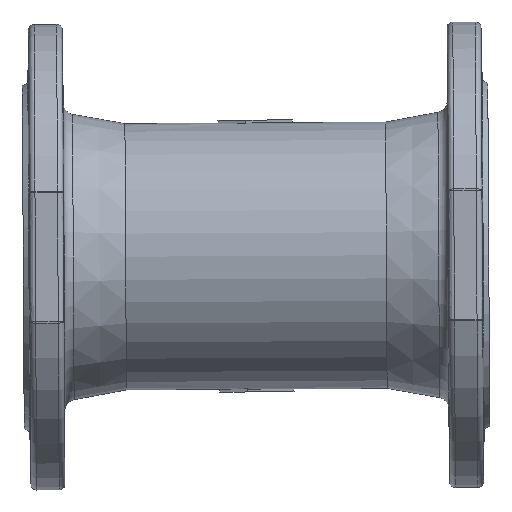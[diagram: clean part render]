
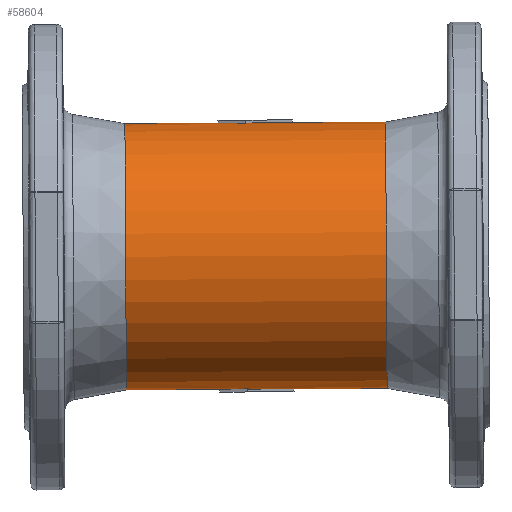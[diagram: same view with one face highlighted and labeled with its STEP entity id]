
A CAD part, front view. The second image highlights one B-rep face of the part: STEP entity #58604.
In plain terms, the highlighted cylindrical face has radius 71.5 mm (diameter 143 mm), a partial arc.
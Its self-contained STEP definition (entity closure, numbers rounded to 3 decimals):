
#430 = CARTESIAN_POINT ( 'NONE',  ( 183.273, 86.183, -2.217 ) ) ;
#1579 = AXIS2_PLACEMENT_3D ( 'NONE', #54768, #13092, #44480 ) ;
#1953 = ORIENTED_EDGE ( 'NONE', *, *, #38694, .T. ) ;
#2718 = CARTESIAN_POINT ( 'NONE',  ( 158.672, 79.189, -73.513 ) ) ;
#3086 = EDGE_CURVE ( 'NONE', #57584, #5645, #62374, .T. ) ;
#3390 = CARTESIAN_POINT ( 'NONE',  ( 232.871, 86.183, 69.562 ) ) ;
#4032 = DIRECTION ( 'NONE',  ( -1., 0., -0.006 ) ) ;
#4537 = LINE ( 'NONE', #39974, #9403 ) ;
#4540 = CARTESIAN_POINT ( 'NONE',  ( 287.871, 83.183, 69.807 ) ) ;
#5645 = VERTEX_POINT ( 'NONE', #11751 ) ;
#6044 = DIRECTION ( 'NONE',  ( 0.006, 0., -1. ) ) ;
#7744 = VECTOR ( 'NONE', #49645, 1000. ) ;
#7939 = CARTESIAN_POINT ( 'NONE',  ( 233.272, 86.183, -1.937 ) ) ;
#8304 = ORIENTED_EDGE ( 'NONE', *, *, #64104, .T. ) ;
#8399 = CARTESIAN_POINT ( 'NONE',  ( 157.874, 79.189, 68.799 ) ) ;
#9403 = VECTOR ( 'NONE', #25579, 1000. ) ;
#9981 = EDGE_CURVE ( 'NONE', #36326, #62855, #28847, .T. ) ;
#10167 = VECTOR ( 'NONE', #45308, 1000. ) ;
#10437 = CARTESIAN_POINT ( 'NONE',  ( 182.873, 83.183, 69.219 ) ) ;
#11231 = ORIENTED_EDGE ( 'NONE', *, *, #65944, .F. ) ;
#11512 = EDGE_CURVE ( 'NONE', #22567, #16665, #29944, .T. ) ;
#11751 = CARTESIAN_POINT ( 'NONE',  ( 93.675, 86.183, -74.22 ) ) ;
#12835 = CYLINDRICAL_SURFACE ( 'NONE', #28855, 71.5 ) ;
#13092 = DIRECTION ( 'NONE',  ( 1., 0., 0.006 ) ) ;
#14383 = EDGE_CURVE ( 'NONE', #33401, #22853, #48704, .T. ) ;
#14619 = ORIENTED_EDGE ( 'NONE', *, *, #61128, .T. ) ;
#15099 = DIRECTION ( 'NONE',  ( 1., 0., 0.006 ) ) ;
#16167 =( BOUNDED_CURVE ( )  B_SPLINE_CURVE ( 3, ( #64968, #54642, #18952, #39662 ),
 .UNSPECIFIED., .F., .F. ) 
 B_SPLINE_CURVE_WITH_KNOTS ( ( 4, 4 ),
 ( 4.712, 4.81 ),
 .UNSPECIFIED. ) 
 CURVE ( )  GEOMETRIC_REPRESENTATION_ITEM ( )  RATIONAL_B_SPLINE_CURVE ( ( 1., 0.999, 0.999, 1. ) ) 
 REPRESENTATION_ITEM ( '' )  );
#16350 = CARTESIAN_POINT ( 'NONE',  ( 157.873, 83.183, 69.079 ) ) ;
#16416 = LINE ( 'NONE', #37450, #49982 ) ;
#16665 = VERTEX_POINT ( 'NONE', #16350 ) ;
#17197 = CARTESIAN_POINT ( 'NONE',  ( 288.271, 86.183, -1.629 ) ) ;
#17509 =( BOUNDED_CURVE ( )  B_SPLINE_CURVE ( 3, ( #38792, #49743, #43475, #8399 ),
 .UNSPECIFIED., .F., .F. ) 
 B_SPLINE_CURVE_WITH_KNOTS ( ( 4, 4 ),
 ( 4.712, 4.81 ),
 .UNSPECIFIED. ) 
 CURVE ( )  GEOMETRIC_REPRESENTATION_ITEM ( )  RATIONAL_B_SPLINE_CURVE ( ( 1., 0.999, 0.999, 1. ) ) 
 REPRESENTATION_ITEM ( '' )  );
#18952 = CARTESIAN_POINT ( 'NONE',  ( 153.687, 81.514, -73.77 ) ) ;
#21048 = CARTESIAN_POINT ( 'NONE',  ( 158.673, 83.183, -73.793 ) ) ;
#21536 = CARTESIAN_POINT ( 'NONE',  ( 288.672, 86.183, -73.128 ) ) ;
#21908 = CARTESIAN_POINT ( 'NONE',  ( 92.874, 86.183, 68.777 ) ) ;
#22059 = ORIENTED_EDGE ( 'NONE', *, *, #40364, .F. ) ;
#22086 = DIRECTION ( 'NONE',  ( 1., 0., 0.006 ) ) ;
#22567 = VERTEX_POINT ( 'NONE', #10437 ) ;
#22831 = DIRECTION ( 'NONE',  ( 0.006, 0., -1. ) ) ;
#22853 = VERTEX_POINT ( 'NONE', #65713 ) ;
#23031 = CARTESIAN_POINT ( 'NONE',  ( 157.874, 79.189, 68.799 ) ) ;
#23693 = ORIENTED_EDGE ( 'NONE', *, *, #35343, .F. ) ;
#25288 = AXIS2_PLACEMENT_3D ( 'NONE', #7939, #22086, #6044 ) ;
#25579 = DIRECTION ( 'NONE',  ( -1., 0., -0.006 ) ) ;
#26539 = LINE ( 'NONE', #21536, #36588 ) ;
#28669 = VERTEX_POINT ( 'NONE', #21048 ) ;
#28847 = LINE ( 'NONE', #39858, #36358 ) ;
#28855 = AXIS2_PLACEMENT_3D ( 'NONE', #17197, #37571, #22831 ) ;
#29277 = AXIS2_PLACEMENT_3D ( 'NONE', #49785, #4032, #44169 ) ;
#29317 = LINE ( 'NONE', #49967, #7744 ) ;
#29944 = LINE ( 'NONE', #4540, #10167 ) ;
#31403 = CARTESIAN_POINT ( 'NONE',  ( 142.873, 86.183, 69.058 ) ) ;
#32128 = EDGE_CURVE ( 'NONE', #33401, #28669, #4537, .T. ) ;
#32798 = EDGE_CURVE ( 'NONE', #47290, #35210, #16167, .T. ) ;
#33401 = VERTEX_POINT ( 'NONE', #54494 ) ;
#35210 = VERTEX_POINT ( 'NONE', #2718 ) ;
#35343 = EDGE_CURVE ( 'NONE', #57584, #43028, #16416, .T. ) ;
#35460 = EDGE_CURVE ( 'NONE', #56276, #16665, #37221, .T. ) ;
#36326 = VERTEX_POINT ( 'NONE', #44787 ) ;
#36358 = VECTOR ( 'NONE', #64471, 1000. ) ;
#36588 = VECTOR ( 'NONE', #41938, 1000. ) ;
#37221 = CIRCLE ( 'NONE', #53185, 71.5 ) ;
#37450 = CARTESIAN_POINT ( 'NONE',  ( 287.871, 86.183, 69.87 ) ) ;
#37510 = ORIENTED_EDGE ( 'NONE', *, *, #3086, .T. ) ;
#37571 = DIRECTION ( 'NONE',  ( 1., 0., 0.006 ) ) ;
#38694 = EDGE_CURVE ( 'NONE', #35210, #28669, #57807, .T. ) ;
#38792 = CARTESIAN_POINT ( 'NONE',  ( 142.873, 86.183, 69.058 ) ) ;
#39662 = CARTESIAN_POINT ( 'NONE',  ( 158.672, 79.189, -73.513 ) ) ;
#39669 = ORIENTED_EDGE ( 'NONE', *, *, #32798, .T. ) ;
#39858 = CARTESIAN_POINT ( 'NONE',  ( 287.871, 86.183, 69.87 ) ) ;
#39894 = EDGE_LOOP ( 'NONE', ( #23693, #37510, #14619, #39669, #1953, #43305, #57825, #8304, #62733, #43128, #22059, #42494, #41070, #11231 ) ) ;
#39974 = CARTESIAN_POINT ( 'NONE',  ( 288.671, 83.183, -73.065 ) ) ;
#40364 = EDGE_CURVE ( 'NONE', #22567, #36326, #61252, .T. ) ;
#41070 = ORIENTED_EDGE ( 'NONE', *, *, #35460, .F. ) ;
#41603 = DIRECTION ( 'NONE',  ( 1., 0., 0.006 ) ) ;
#41938 = DIRECTION ( 'NONE',  ( 1., 0., 0.006 ) ) ;
#42494 = ORIENTED_EDGE ( 'NONE', *, *, #11512, .T. ) ;
#43028 = VERTEX_POINT ( 'NONE', #31403 ) ;
#43128 = ORIENTED_EDGE ( 'NONE', *, *, #9981, .F. ) ;
#43305 = ORIENTED_EDGE ( 'NONE', *, *, #32128, .F. ) ;
#43475 = CARTESIAN_POINT ( 'NONE',  ( 152.887, 81.514, 68.999 ) ) ;
#43779 = DIRECTION ( 'NONE',  ( -0.006, 0., 1. ) ) ;
#43884 = EDGE_CURVE ( 'NONE', #62855, #44697, #65744, .T. ) ;
#44169 = DIRECTION ( 'NONE',  ( -0.006, 0., 1. ) ) ;
#44480 = DIRECTION ( 'NONE',  ( 0.006, 0., -1. ) ) ;
#44697 = VERTEX_POINT ( 'NONE', #62611 ) ;
#44787 = CARTESIAN_POINT ( 'NONE',  ( 182.872, 86.183, 69.282 ) ) ;
#45308 = DIRECTION ( 'NONE',  ( -1., 0., -0.006 ) ) ;
#47290 = VERTEX_POINT ( 'NONE', #51220 ) ;
#48704 = CIRCLE ( 'NONE', #58321, 71.5 ) ;
#49256 = AXIS2_PLACEMENT_3D ( 'NONE', #52184, #41603, #50879 ) ;
#49645 = DIRECTION ( 'NONE',  ( 1., 0., 0.006 ) ) ;
#49743 = CARTESIAN_POINT ( 'NONE',  ( 147.883, 83.847, 69.086 ) ) ;
#49785 = CARTESIAN_POINT ( 'NONE',  ( 183.273, 86.183, -2.217 ) ) ;
#49967 = CARTESIAN_POINT ( 'NONE',  ( 288.672, 86.183, -73.128 ) ) ;
#49982 = VECTOR ( 'NONE', #56823, 1000. ) ;
#50879 = DIRECTION ( 'NONE',  ( 0.006, 0., -1. ) ) ;
#51220 = CARTESIAN_POINT ( 'NONE',  ( 143.674, 86.183, -73.94 ) ) ;
#52184 = CARTESIAN_POINT ( 'NONE',  ( 158.273, 86.183, -2.357 ) ) ;
#53185 = AXIS2_PLACEMENT_3D ( 'NONE', #53416, #58773, #43779 ) ;
#53416 = CARTESIAN_POINT ( 'NONE',  ( 158.273, 86.183, -2.357 ) ) ;
#54494 = CARTESIAN_POINT ( 'NONE',  ( 183.673, 83.183, -73.653 ) ) ;
#54642 = CARTESIAN_POINT ( 'NONE',  ( 148.684, 83.847, -73.912 ) ) ;
#54768 = CARTESIAN_POINT ( 'NONE',  ( 93.274, 86.183, -2.721 ) ) ;
#56276 = VERTEX_POINT ( 'NONE', #23031 ) ;
#56823 = DIRECTION ( 'NONE',  ( 1., 0., 0.006 ) ) ;
#57584 = VERTEX_POINT ( 'NONE', #21908 ) ;
#57807 = CIRCLE ( 'NONE', #49256, 71.5 ) ;
#57825 = ORIENTED_EDGE ( 'NONE', *, *, #14383, .T. ) ;
#58321 = AXIS2_PLACEMENT_3D ( 'NONE', #430, #15099, #65812 ) ;
#58604 = ADVANCED_FACE ( 'NONE', ( #63546 ), #12835, .T. ) ;
#58773 = DIRECTION ( 'NONE',  ( -1., 0., -0.006 ) ) ;
#61128 = EDGE_CURVE ( 'NONE', #5645, #47290, #26539, .T. ) ;
#61252 = CIRCLE ( 'NONE', #29277, 71.5 ) ;
#62374 = CIRCLE ( 'NONE', #1579, 71.5 ) ;
#62611 = CARTESIAN_POINT ( 'NONE',  ( 233.673, 86.183, -73.436 ) ) ;
#62733 = ORIENTED_EDGE ( 'NONE', *, *, #43884, .F. ) ;
#62855 = VERTEX_POINT ( 'NONE', #3390 ) ;
#63546 = FACE_OUTER_BOUND ( 'NONE', #39894, .T. ) ;
#64104 = EDGE_CURVE ( 'NONE', #22853, #44697, #29317, .T. ) ;
#64471 = DIRECTION ( 'NONE',  ( 1., 0., 0.006 ) ) ;
#64968 = CARTESIAN_POINT ( 'NONE',  ( 143.674, 86.183, -73.94 ) ) ;
#65713 = CARTESIAN_POINT ( 'NONE',  ( 183.673, 86.183, -73.716 ) ) ;
#65744 = CIRCLE ( 'NONE', #25288, 71.5 ) ;
#65812 = DIRECTION ( 'NONE',  ( 0.006, 0., -1. ) ) ;
#65944 = EDGE_CURVE ( 'NONE', #43028, #56276, #17509, .T. ) ;
